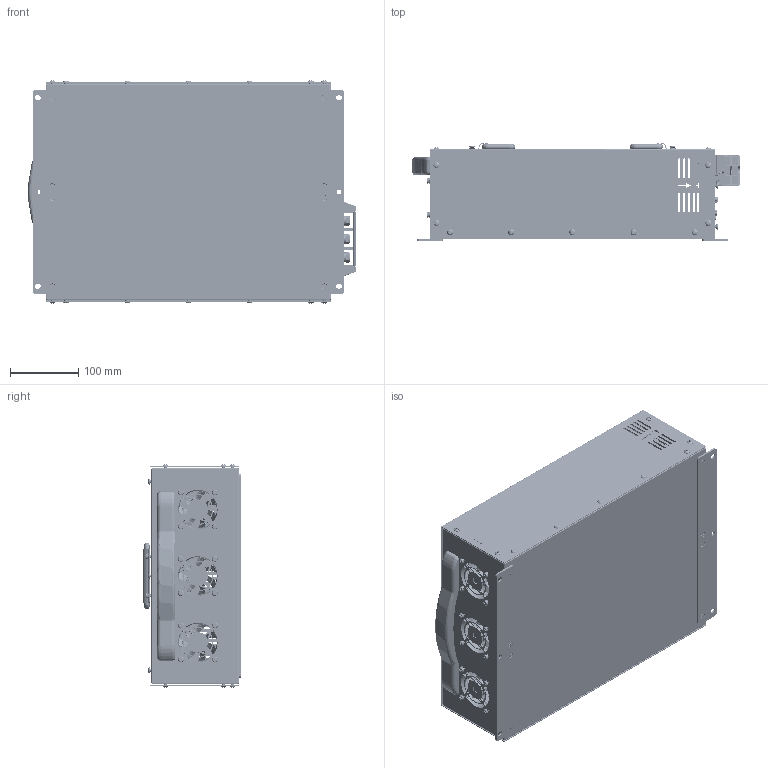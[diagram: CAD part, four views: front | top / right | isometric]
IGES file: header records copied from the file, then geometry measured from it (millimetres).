
Global section: file name: VX4COM_M8_OLED_2026.06.23; native system: Autodesk Inventor 2026; preprocessor: unknown; author: Administrator; date: 20260623.143702; units: millimetre
Bounding box: 480.47 x 144.9 x 327.84 mm (x, y, z)
Volume: 1010501 mm3; surface area: 1240453.4 mm2
Topology: 8 solids, 8 shells, 8220 faces, 22604 edges, 15050 vertices
Faces by surface type: bspline 8220
